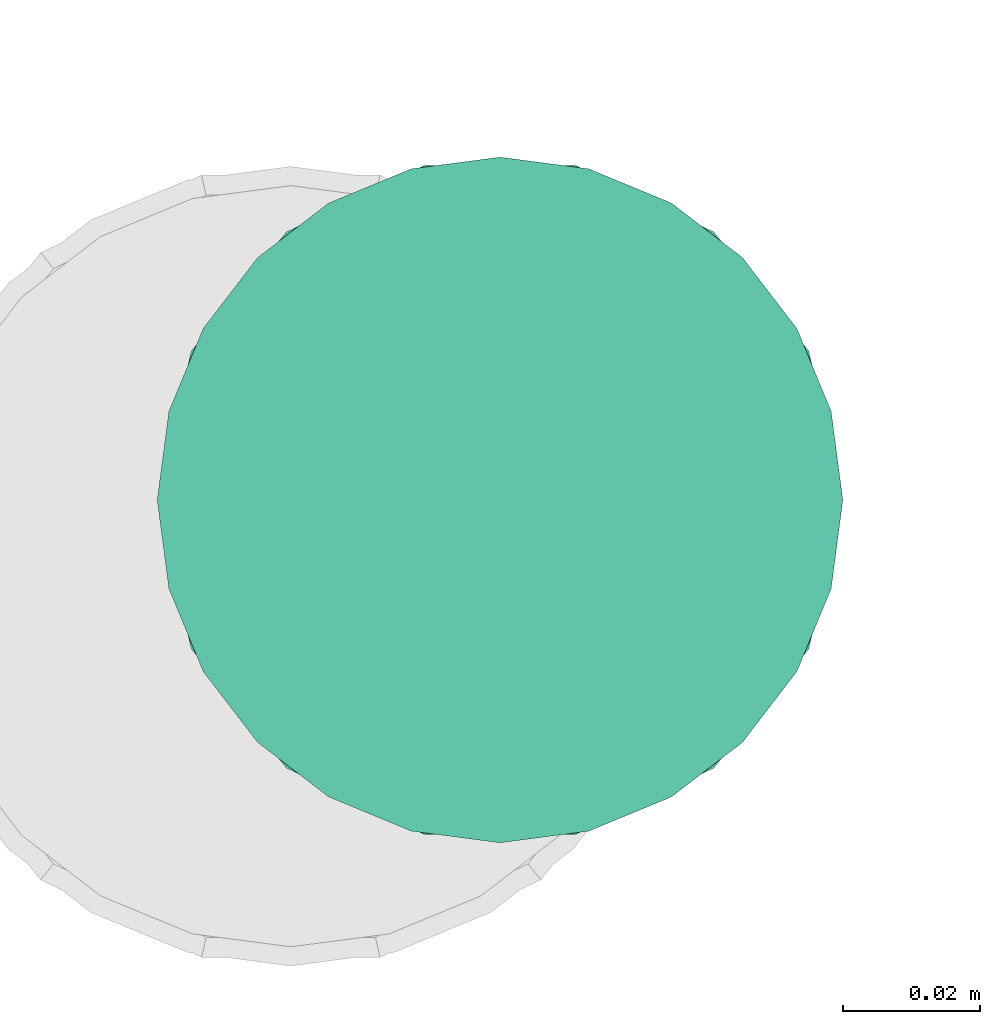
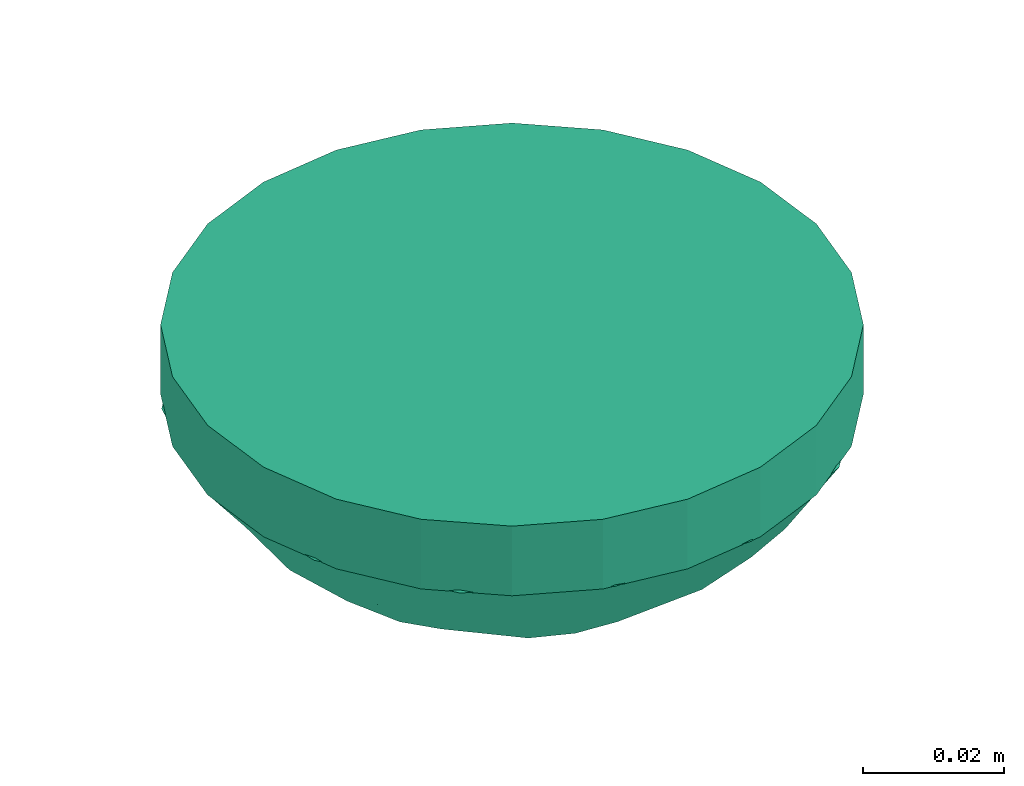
# One storey, part 3 of 3: 1 distribution control element.
"""IFC2X3 building model written with IfcOpenShell, lengths in millimetres."""

from ifc_helpers import new_model, entity, si_unit, converted_unit, derived_unit, direction, frame, origin_with_axes, place, context, subcontext, project, spatial, open_shell, surface_model, source, transform, mapped, type_object, element, save


model = new_model("IFC2X3")

# Units and contexts
model_context = context("Model", 3, precision=0.01, world=frame((0.0, 4.29681676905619e-09, 0.0)), true_north=direction((4.01073788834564e-13, 1.0)))
plan_context = context("Plan", 3, precision=0.01, world=frame((0.0, 4.29681676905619e-09, 0.0)), true_north=direction((4.01073788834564e-13, 1.0)))
body_context = subcontext(model_context, "Body", "Model", "MODEL_VIEW")
ifc_project = project(units=[converted_unit("PLANEANGLEUNIT", "DEGREE", entity("IfcPositiveLengthMeasure", 0.0174532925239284), si_unit("PLANEANGLEUNIT", "RADIAN"), dimensions=[0, 0, 0, 0, 0, 0, 0]), si_unit("AREAUNIT", "SQUARE_METRE"), si_unit("LENGTHUNIT", "METRE", prefix="MILLI"), si_unit("MASSUNIT", "GRAM", prefix="KILO"), si_unit("POWERUNIT", "WATT"), si_unit("PRESSUREUNIT", "PASCAL", prefix="KILO"), si_unit("FORCEUNIT", "NEWTON", prefix="KILO"), si_unit("ELECTRICVOLTAGEUNIT", "VOLT"), si_unit("ELECTRICCURRENTUNIT", "AMPERE"), si_unit("THERMODYNAMICTEMPERATUREUNIT", "DEGREE_CELSIUS"), si_unit("TIMEUNIT", "SECOND"), si_unit("VOLUMEUNIT", "CUBIC_METRE"), derived_unit("LINEARVELOCITYUNIT", [(si_unit("LENGTHUNIT", "METRE"), 1), (si_unit("TIMEUNIT", "SECOND"), -1)]), derived_unit("VOLUMETRICFLOWRATEUNIT", [(si_unit("VOLUMEUNIT", "CUBIC_METRE"), 1), (si_unit("TIMEUNIT", "SECOND"), -1)]), derived_unit("THERMALTRANSMITTANCEUNIT", [(si_unit("POWERUNIT", "WATT"), 1), (si_unit("THERMODYNAMICTEMPERATUREUNIT", "KELVIN"), -1), (si_unit("AREAUNIT", "SQUARE_METRE"), -1)]), derived_unit("SOUNDPRESSUREUNIT", [(si_unit("PRESSUREUNIT", "PASCAL"), 1)])], contexts=[model_context, plan_context])

# Site, building, storey
site_placement = place(None, frame((0.0, -4.29681676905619e-09, 0.0), z_axis=(0.0, 0.0, 1.0), x_axis=(1.0, 0.0, 0.0)))
site = spatial("IfcSite", under=ifc_project, at=site_placement, Name="ENGM", CompositionType="ELEMENT")
building_placement = place(site_placement, frame((0.0, 4.29681676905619e-09, 0.0), z_axis=(0.0, 0.0, 1.0), x_axis=(1.0, 0.0, 0.0)))
building = spatial("IfcBuilding", under=site, at=building_placement, Name="TS", CompositionType="ELEMENT")
storey_placement = place(building_placement, frame((0.0, 0.0, 204000.0), z_axis=(0.0, 0.0, 1.0), x_axis=(1.0, 0.0, 0.0)))
storey = spatial("IfcBuildingStorey", under=building, at=storey_placement, Name="Nivå D", CompositionType="ELEMENT", Elevation=204000.0)

# Distribution control element
alarm_type = type_object("IfcAlarmType", Name="Standard", PredefinedType="NOTDEFINED")
shared_shape = source(origin_with_axes(), body_context, "Body", "SurfaceModel", [
    surface_model("IfcShellBasedSurfaceModel", [(12.94095, -48.29629, 0.0), (25.0, -43.30127, 0.0), (35.35534, -35.35534, 0.0), (48.29629, -12.94095, 0.0), (-48.29629, -12.94095, 0.0), (43.30127, -25.0, 0.0), (-43.30127, 25.0, 0.0), (0.0, -50.0, 0.0), (-25.0, -43.30127, 0.0), (-12.94095, -48.29629, 0.0), (-35.35534, -35.35534, 0.0), (-43.30127, -25.0, 0.0), (50.0, 0.0, 0.0), (48.29629, 12.94095, 0.0), (43.30127, 25.0, 0.0), (35.35534, 35.35534, 0.0), (25.0, 43.30127, 0.0), (12.94095, 48.29629, 0.0), (0.0, 50.0, 0.0), (-50.0, 0.0, 0.0), (-48.29629, 12.94095, 0.0), (-25.0, 43.30127, 0.0), (-35.35534, 35.35534, 0.0), (-12.94095, 48.29629, 0.0), (7.67608, -31.0637, -31.12862), (4.05558, -21.70832, -36.64985), (0.0, -29.66445, -32.67364), (-2.79506, -11.01274, -40.03244), (0.0, -15.02283, -39.14225), (0.0, 0.0, -41.2), (-10.96897, -48.05821, -11.62353), (0.0, -48.05821, -11.62353), (-4.81398, -42.72521, -21.00498), (8.70709, -20.82992, -36.43505), (15.71552, -5.73014, -38.63692), (11.70406, -8.93591, -39.22442), (-30.53049, -30.53049, -20.78559), (-37.57342, -29.96381, -11.62353), (-30.73438, -38.53969, -11.62353), (2.79506, -11.01274, -40.03244), (-3.86054, -22.19731, -36.45535), (-5.26404, -10.58292, -39.93531), (14.7105, -2.44735, -39.17287), (29.88459, -8.08395, -31.83758), (19.69501, 0.0, -37.61326), (36.86111, 0.0, -27.3136), (39.91738, -12.96556, -22.20584), (15.96042, -18.5819, -35.54351), (6.90318, -8.6993, -40.08507), (5.27523, -10.65267, -39.92066), (9.8475, 0.0, -39.40663), (44.41246, -21.38792, -11.62353), (35.75519, -22.60462, -21.82555), (14.18319, -29.14709, -30.83464), (27.04793, -27.53652, -25.72187), (-8.70709, -20.82992, -36.43505), (-23.09167, -36.6454, -20.61752), (-21.97774, -27.94759, -28.42621), (47.34362, -8.5457, -11.62353), (-13.06353, -14.68735, -37.62779), (-11.17668, -7.31629, -39.57942), (-24.0032, -14.86215, -33.5417), (-10.29972, -35.43981, -27.274), (-27.45029, -23.011, -28.20593), (-16.76867, -32.57462, -27.50904), (-19.69501, 0.0, -37.61326), (-18.91126, -5.90044, -37.56966), (-10.71559, -2.12902, -40.12136), (-14.62106, -41.7846, -19.41202), (-20.85168, -43.29895, -11.62353), (4.57466, -40.60127, -23.43443), (-43.10588, 0.0, -19.4329), (-46.85329, -10.69396, -11.62353), (-40.87954, -13.25965, -21.02828), (-32.72348, -9.70245, -29.56139), (-36.86111, 0.0, -27.3136), (10.96897, -48.05821, -11.62353), (17.88349, -37.13545, -23.04571), (-35.00862, -20.27281, -23.86247), (20.85168, -43.29895, -11.62353), (30.73438, -38.53969, -11.62353), (37.57342, -29.96381, -11.62353), (24.0032, -14.86215, -33.5417), (43.10588, 0.0, -19.4329), (28.27806, 0.0, -32.46343), (49.29412, 0.0, -11.62353), (-6.29727, -6.90778, -40.41247), (-9.83734, -4.07711, -40.17573), (-28.27805, 0.0, -32.46344), (-44.41246, -21.38792, -11.62353), (-49.29412, 0.0, -11.62353), (-9.84751, 0.0, -39.40663), (-14.21719, 3.92949, -39.21761), (2.79506, 11.01274, -40.03244), (8.70709, 20.82992, -36.43505), (3.86054, 22.19731, -36.45535), (-9.74719, 10.70904, -39.29066), (-16.87279, 22.34319, -33.67768), (-19.26591, 15.71456, -35.36294), (24.0032, 14.86215, -33.5417), (11.17668, 7.31629, -39.57942), (18.91125, 5.90044, -37.56966), (0.0, 29.66445, -32.67364), (0.0, 15.02283, -39.14225), (-11.74097, 7.2697, -39.46637), (13.06353, 14.68735, -37.62779), (21.97774, 27.94759, -28.42621), (-7.02886, 21.45447, -36.43505), (-2.43974, 10.65154, -40.12089), (-46.85329, 10.69396, -11.62353), (-43.07761, 0.0, -19.46857), (-37.80528, 11.02644, -24.95988), (30.53049, 30.53049, -20.78559), (37.57342, 29.96381, -11.62353), (30.73438, 38.53969, -11.62353), (-26.44156, 5.37443, -34.25208), (-14.5112, 35.83367, -25.6627), (-4.59504, 40.78212, -23.23833), (-10.96897, 48.05821, -11.62353), (5.26404, 10.58292, -39.93531), (-20.85168, 43.29895, -11.62353), (-30.73438, 38.53969, -11.62353), (-22.17501, 31.24312, -25.99315), (-6.94206, 31.54086, -30.91915), (27.45029, 23.011, -28.20593), (9.83734, 4.07711, -40.17573), (10.71466, 2.12844, -40.12157), (14.62106, 41.7846, -19.41201), (23.09167, 36.6454, -20.61752), (20.85168, 43.29895, -11.62353), (10.29972, 35.43981, -27.274), (-29.8461, 26.39463, -24.49477), (4.76512, 42.55573, -21.21352), (-33.50362, 18.51408, -26.02511), (46.85329, 10.69396, -11.62353), (40.87954, 13.25965, -21.02828), (32.72348, 9.70245, -29.56139), (0.0, 48.05821, -11.62353), (-5.58546, 11.46771, -39.72431), (16.76867, 32.57462, -27.50904), (35.00862, 20.27281, -23.86247), (6.29727, 6.90778, -40.41247), (9.80274, 0.0, -39.41479), (44.41246, 21.38792, -11.62353), (10.96897, 48.05821, -11.62353), (-25.94922, 12.36153, -33.2386), (-37.57342, 29.96381, -11.62353), (-44.41246, 21.38792, -11.62353), (46.58288, -14.97139, -12.0), (46.85329, -10.69396, -11.62353), (45.63288, -16.04094, -11.62353), (-26.16238, -41.50528, -12.0), (-21.15027, -43.91899, -12.0), (38.11147, -30.39288, -12.0), (34.64298, -34.74223, -12.0), (11.12605, -48.7464, -12.0), (5.56302, -48.7464, -12.0), (-16.13816, -46.33269, -12.0), (-15.91033, -45.67858, -11.62353), (21.15027, -43.91899, -12.0), (25.79303, -40.91932, -11.62353), (49.14572, -3.74285, -12.0), (48.07371, -5.34698, -11.62353), (48.29144, -7.4857, -12.0), (34.1539, -34.25175, -11.62353), (31.17449, -39.09157, -12.0), (41.57996, -26.04353, -12.0), (40.99294, -25.67586, -11.62353), (15.91033, -45.67858, -11.62353), (16.13816, -46.33269, -12.0), (45.81566, -18.33279, -12.0), (0.0, -48.7464, -12.0), (5.48449, -48.05821, -11.62353), (-11.12605, -48.7464, -12.0), (-5.56302, -48.7464, -12.0), (-38.11147, -30.39288, -12.0), (-41.57996, -26.04353, -12.0), (26.16238, -41.50528, -12.0), (-45.92524, -14.76003, -11.62353), (-47.52422, -10.84709, -12.0), (-46.28633, -16.27064, -12.0), (-25.79303, -40.91932, -11.62353), (-31.17449, -39.09157, -12.0), (-34.64298, -34.74223, -12.0), (-34.1539, -34.25175, -11.62353), (-47.60968, -7.38002, -11.62353), (-48.76211, -5.42355, -12.0), (-5.48449, -48.05821, -11.62353), (47.43716, -11.22855, -12.0), (-40.99294, -25.67586, -11.62353), (-45.04844, -21.69419, -12.0), (-45.16885, -18.07398, -11.62353), (-48.4519, -3.69001, -11.62353), (-50.0, 0.0, -12.0), (-46.76746, -11.07003, -11.62353), (45.04844, -21.69419, -12.0), (50.0, 0.0, -12.0), (-46.58288, 14.97139, -12.0), (-45.63288, 16.04094, -11.62353), (26.16238, 41.50528, -12.0), (21.15027, 43.91899, -12.0), (-38.11147, 30.39288, -12.0), (-34.64298, 34.74223, -12.0), (-11.12605, 48.7464, -12.0), (-5.56302, 48.7464, -12.0), (16.13816, 46.33269, -12.0), (15.91033, 45.67858, -11.62353), (-21.15027, 43.91899, -12.0), (-25.79303, 40.91932, -11.62353), (-49.14572, 3.74285, -12.0), (-48.07371, 5.34698, -11.62353), (-48.29144, 7.4857, -12.0), (-34.1539, 34.25175, -11.62353), (-31.17449, 39.09157, -12.0), (-41.57996, 26.04353, -12.0), (-40.99294, 25.67586, -11.62353), (-15.91033, 45.67858, -11.62353), (-16.13816, 46.33269, -12.0), (-45.81566, 18.33279, -12.0), (0.0, 48.7464, -12.0), (-5.48449, 48.05821, -11.62353), (11.12605, 48.7464, -12.0), (5.56302, 48.7464, -12.0), (38.11147, 30.39288, -12.0), (41.57996, 26.04353, -12.0), (-26.16238, 41.50528, -12.0), (45.92524, 14.76003, -11.62353), (47.52422, 10.84709, -12.0), (46.28633, 16.27064, -12.0), (25.79303, 40.91932, -11.62353), (31.17449, 39.09157, -12.0), (34.64298, 34.74223, -12.0), (34.1539, 34.25175, -11.62353), (47.60968, 7.38002, -11.62353), (48.76211, 5.42355, -12.0), (5.48449, 48.05821, -11.62353), (-47.43716, 11.22855, -12.0), (40.99294, 25.67586, -11.62353), (45.04844, 21.69419, -12.0), (45.16885, 18.07398, -11.62353), (48.4519, 3.69001, -11.62353), (46.76746, 11.07003, -11.62353), (-45.04844, 21.69419, -12.0), (0.0, 0.0, -42.0), (5.33942, -10.73446, -40.7172), (2.83508, -11.17044, -40.81571), (43.69448, 0.0, -19.95738), (47.52422, -10.84709, -12.0), (40.33134, -11.52809, -23.43317), (-7.786, -31.50853, -31.7844), (-4.11366, -22.01918, -37.3847), (0.0, -30.08924, -33.35155), (11.0079, -6.8158, -40.5011), (12.93665, -14.0657, -38.68041), (14.83043, -42.38295, -19.90001), (23.38736, -37.17555, -21.14005), (28.50165, -6.13646, -33.9246), (25.39298, -14.32468, -33.9246), (22.46861, -28.30325, -28.98192), (31.02402, -31.02401, -21.19602), (3.91582, -22.51517, -37.1874), (10.44721, -35.94731, -27.87458), (9.98852, 0.0, -40.18095), (14.48263, -4.02214, -39.9702), (0.0, -15.23795, -39.91278), (19.97704, 0.0, -38.3619), (-11.81668, -7.81843, -40.19998), (-7.48214, -8.20752, -40.901), (21.78942, -19.68136, -33.79957), (8.83177, -21.1282, -37.16682), (4.88291, -43.33703, -21.51579), (-18.13958, -37.66723, -23.58574), (-4.64017, -41.18267, -23.98003), (35.06539, -22.09313, -23.97816), (-15.38276, -16.90014, -37.18762), (-14.38629, -29.56446, -31.48621), (-27.45219, -27.42471, -26.6295), (-41.95596, -9.3663, -22.25327), (-37.38895, 0.0, -27.91475), (-31.18445, -7.87542, -31.98758), (-8.83177, -21.1282, -37.16682), (-19.97704, 0.0, -38.3619), (-17.78963, -5.45275, -38.85817), (-2.83508, -11.17044, -40.81571), (-9.98852, 0.0, -40.18095), (-48.02157, -8.66807, -12.0), (-43.72314, 0.0, -19.92121), (-5.33942, -10.73446, -40.7172), (16.99278, -32.85857, -28.25968), (-37.03558, -17.24643, -24.60212), (-30.47074, -20.85231, -28.31969), (-36.64373, -25.17991, -20.46623), (-25.39298, -14.32468, -33.9246), (-28.68299, 0.0, -33.13833), (28.683, 0.0, -33.13833), (37.38895, 0.0, -27.91475), (-31.02401, 31.02402, -21.19602), (-43.69448, 0.0, -19.95738), (-47.52422, 10.84709, -12.0), (-40.33134, 11.52809, -23.43317), (-14.83043, 42.38294, -19.90002), (-23.38736, 37.17555, -21.14005), (7.786, 31.50853, -31.7844), (4.11366, 22.01918, -37.3847), (0.0, 30.08924, -33.35155), (-11.0079, 6.8158, -40.5011), (-21.78942, 19.68136, -33.79957), (-12.93665, 14.0657, -38.68041), (-25.39298, 14.32468, -33.9246), (-28.50164, 6.13646, -33.9246), (-22.4686, 28.30325, -28.98192), (-8.83177, 21.1282, -37.16682), (-3.91582, 22.51517, -37.1874), (-10.44721, 35.94731, -27.87459), (-14.48263, 4.02214, -39.9702), (-2.83508, 11.17044, -40.81571), (0.0, 15.23795, -39.91278), (-4.88291, 43.33703, -21.51579), (18.13958, 37.66723, -23.58574), (4.64017, 41.18267, -23.98003), (-35.06539, 22.09313, -23.97816), (15.38276, 16.90014, -37.18762), (14.38629, 29.56446, -31.48621), (27.45219, 27.42471, -26.6295), (-16.99277, 32.85857, -28.25968), (41.95596, 9.3663, -22.25327), (31.18445, 7.87542, -31.98758), (17.78963, 5.45275, -38.85817), (2.83508, 11.17044, -40.81571), (8.83177, 21.1282, -37.16682), (48.02157, 8.66807, -12.0), (43.72314, 0.0, -19.9212), (11.81668, 7.81843, -40.19998), (7.48214, 8.20752, -40.901), (5.33942, 10.73446, -40.7172), (-5.33942, 10.73446, -40.7172), (37.03558, 17.24643, -24.60212), (30.47074, 20.85231, -28.31969), (36.64373, 25.17991, -20.46623), (25.39298, 14.32468, -33.9246), (12.94095, -48.29629, -11.9), (25.0, -43.30127, -11.9), (35.35534, -35.35534, -11.9), (48.29629, -12.94095, -11.9), (-48.29629, -12.94095, -11.9), (43.30127, -25.0, -11.9), (-43.30127, 25.0, -11.9), (0.0, -50.0, -11.9), (-25.0, -43.30127, -11.9), (-12.94095, -48.29629, -11.9), (-35.35534, -35.35534, -11.9), (-43.30127, -25.0, -11.9), (50.0, 0.0, -11.9), (48.29629, 12.94095, -11.9), (43.30127, 25.0, -11.9), (35.35534, 35.35534, -11.9), (25.0, 43.30127, -11.9), (12.94095, 48.29629, -11.9), (0.0, 50.0, -11.9), (-50.0, 0.0, -11.9), (-48.29629, 12.94095, -11.9), (-25.0, 43.30127, -11.9), (-35.35534, 35.35534, -11.9), (-12.94095, 48.29629, -11.9), (0.0, 50.0, -12.1), (12.94095, 48.29629, -12.1), (25.0, 43.30127, -12.1), (-43.30127, 25.0, -12.1), (35.35534, 35.35534, -12.1), (43.30127, 25.0, -12.1), (48.29629, 12.94095, -12.1), (-25.0, 43.30127, -12.1), (-35.35534, 35.35534, -12.1), (-12.94095, 48.29629, -12.1), (-50.0, 0.0, -12.1), (-48.29629, 12.94095, -12.1), (-48.29629, -12.94095, -12.1), (48.29629, -12.94095, -12.1), (12.94095, -48.29629, -12.1), (43.30127, -25.0, -12.1), (35.35534, -35.35534, -12.1), (25.0, -43.30127, -12.1), (-25.0, -43.30127, -12.1), (-35.35534, -35.35534, -12.1), (-43.30127, -25.0, -12.1), (0.0, -50.0, -12.1), (-12.94095, -48.29629, -12.1), (50.0, 0.0, -12.1), (0.0, 50.0, -12.0), (12.94095, 48.29629, -12.0), (25.0, 43.30127, -12.0), (-43.30127, 25.0, -12.0), (35.35534, 35.35534, -12.0), (43.30127, 25.0, -12.0), (48.29629, 12.94095, -12.0), (-25.0, 43.30127, -12.0), (-35.35534, 35.35534, -12.0), (-12.94095, 48.29629, -12.0), (-48.29629, 12.94095, -12.0), (-48.29629, -12.94095, -12.0), (48.29629, -12.94095, -12.0), (12.94095, -48.29629, -12.0), (43.30127, -25.0, -12.0), (35.35534, -35.35534, -12.0), (25.0, -43.30127, -12.0), (-25.0, -43.30127, -12.0), (-35.35534, -35.35534, -12.0), (-43.30127, -25.0, -12.0), (0.0, -50.0, -12.0), (-12.94095, -48.29629, -12.0)], [open_shell([[[0, 1, 2]], [[0, 2, 3]], [[0, 3, 4]], [[3, 2, 5]], [[6, 4, 3]], [[7, 8, 9]], [[7, 0, 8]], [[10, 4, 11]], [[10, 8, 0]], [[4, 10, 0]], [[3, 12, 6]], [[13, 14, 15]], [[13, 15, 16]], [[16, 17, 18]], [[13, 16, 6]], [[6, 16, 18]], [[19, 6, 20]], [[4, 6, 19]], [[6, 21, 22]], [[21, 6, 23]], [[18, 23, 6]], [[6, 12, 13]], [[24, 25, 26]], [[27, 28, 29]], [[30, 31, 32]], [[24, 33, 25]], [[34, 29, 35]], [[36, 37, 38]], [[39, 29, 28]], [[26, 28, 40]], [[29, 41, 27]], [[42, 43, 44]], [[45, 43, 46]], [[47, 48, 49]], [[42, 44, 50]], [[51, 46, 52]], [[47, 53, 54]], [[27, 55, 40]], [[56, 57, 36]], [[28, 27, 40]], [[51, 58, 46]], [[59, 60, 61]], [[62, 40, 55]], [[59, 61, 63]], [[57, 64, 55]], [[65, 66, 67]], [[68, 56, 69]], [[40, 62, 26]], [[70, 24, 26]], [[61, 60, 66]], [[53, 33, 24]], [[49, 29, 39]], [[71, 72, 73]], [[74, 61, 66]], [[73, 74, 75]], [[49, 39, 33]], [[31, 76, 70]], [[76, 77, 70]], [[78, 61, 74]], [[59, 57, 55]], [[62, 68, 32]], [[77, 76, 79]], [[32, 26, 62]], [[54, 77, 80]], [[77, 53, 24]], [[31, 70, 32]], [[26, 32, 70]], [[54, 81, 52]], [[54, 82, 47]], [[82, 35, 47]], [[47, 35, 48]], [[35, 82, 34]], [[48, 35, 29]], [[43, 34, 82]], [[29, 34, 42]], [[83, 46, 58]], [[43, 84, 44]], [[54, 52, 82]], [[45, 46, 83]], [[58, 85, 83]], [[82, 46, 43]], [[82, 52, 46]], [[41, 55, 27]], [[81, 54, 80]], [[81, 51, 52]], [[60, 86, 29]], [[77, 24, 70]], [[33, 39, 25]], [[87, 66, 60]], [[66, 88, 74]], [[78, 73, 89]], [[73, 75, 71]], [[56, 36, 38]], [[63, 78, 36]], [[39, 28, 25]], [[73, 78, 74]], [[71, 90, 72]], [[26, 25, 28]], [[54, 53, 77]], [[47, 33, 53]], [[78, 89, 37]], [[63, 36, 57]], [[78, 37, 36]], [[69, 30, 68]], [[64, 57, 56]], [[56, 38, 69]], [[59, 63, 57]], [[61, 78, 63]], [[32, 68, 30]], [[68, 62, 64]], [[68, 64, 56]], [[55, 64, 62]], [[59, 55, 41]], [[86, 60, 59]], [[29, 86, 41]], [[41, 86, 59]], [[47, 49, 33]], [[48, 29, 49]], [[79, 80, 77]], [[29, 42, 50]], [[43, 42, 34]], [[43, 45, 84]], [[29, 87, 60]], [[87, 67, 66]], [[29, 91, 67]], [[67, 87, 29]], [[65, 67, 91]], [[88, 66, 65]], [[88, 75, 74]], [[89, 73, 72]], [[91, 29, 92]], [[93, 94, 95]], [[96, 97, 98]], [[99, 100, 101]], [[102, 103, 95]], [[96, 98, 104]], [[105, 106, 94]], [[107, 108, 103]], [[109, 110, 111]], [[112, 113, 114]], [[103, 102, 107]], [[65, 92, 115]], [[75, 115, 111]], [[103, 108, 29]], [[93, 103, 29]], [[107, 116, 97]], [[116, 117, 118]], [[103, 93, 95]], [[29, 119, 93]], [[105, 100, 99]], [[120, 121, 122]], [[102, 123, 107]], [[105, 99, 124]], [[125, 126, 101]], [[127, 128, 129]], [[95, 130, 102]], [[131, 98, 97]], [[104, 92, 29]], [[102, 132, 117]], [[133, 98, 131]], [[83, 134, 135]], [[136, 99, 101]], [[135, 136, 45]], [[118, 117, 137]], [[97, 96, 138]], [[122, 121, 131]], [[130, 95, 94]], [[106, 139, 94]], [[140, 99, 136]], [[128, 106, 112]], [[127, 132, 130]], [[123, 117, 116]], [[132, 102, 130]], [[119, 94, 93]], [[100, 141, 29]], [[142, 126, 29]], [[125, 101, 100]], [[101, 84, 136]], [[140, 135, 143]], [[135, 45, 83]], [[128, 112, 114]], [[124, 140, 112]], [[140, 143, 113]], [[135, 140, 136]], [[83, 85, 134]], [[124, 112, 106]], [[140, 113, 112]], [[129, 144, 127]], [[139, 106, 128]], [[128, 114, 129]], [[105, 124, 106]], [[99, 140, 124]], [[144, 137, 132]], [[127, 130, 139]], [[144, 132, 127]], [[137, 117, 132]], [[127, 139, 128]], [[94, 139, 130]], [[104, 29, 96]], [[145, 115, 92]], [[145, 92, 104]], [[110, 109, 90]], [[97, 122, 131]], [[145, 104, 98]], [[131, 121, 146]], [[147, 111, 133]], [[111, 115, 145]], [[115, 75, 88]], [[133, 111, 145]], [[138, 108, 107]], [[138, 29, 108]], [[97, 138, 107]], [[138, 96, 29]], [[105, 94, 119]], [[141, 100, 105]], [[29, 141, 119]], [[119, 141, 105]], [[117, 123, 102]], [[116, 107, 123]], [[116, 118, 120]], [[29, 125, 100]], [[44, 101, 126]], [[126, 125, 29]], [[44, 126, 142]], [[84, 101, 44]], [[84, 45, 136]], [[143, 135, 134]], [[92, 65, 91]], [[97, 116, 122]], [[122, 116, 120]], [[98, 133, 145]], [[133, 146, 147]], [[88, 65, 115]], [[133, 131, 146]], [[111, 147, 109]], [[110, 75, 111]], [[148, 149, 150]], [[69, 151, 152]], [[153, 81, 154]], [[155, 76, 156]], [[152, 157, 158]], [[79, 159, 160]], [[161, 85, 162]], [[163, 162, 149]], [[164, 165, 154]], [[166, 51, 167]], [[168, 155, 169]], [[51, 170, 150]], [[31, 171, 172]], [[173, 30, 157]], [[69, 152, 158]], [[31, 174, 171]], [[175, 37, 176]], [[79, 169, 159]], [[165, 80, 177]], [[178, 179, 180]], [[153, 167, 81]], [[181, 182, 151]], [[80, 165, 164]], [[183, 38, 184]], [[185, 186, 179]], [[164, 154, 81]], [[159, 177, 160]], [[187, 173, 174]], [[156, 172, 171]], [[149, 148, 188]], [[175, 184, 37]], [[189, 176, 37]], [[89, 190, 189]], [[190, 191, 180]], [[192, 193, 186]], [[179, 178, 194]], [[167, 153, 166]], [[166, 195, 51]], [[169, 79, 168]], [[168, 76, 155]], [[174, 31, 187]], [[187, 30, 173]], [[151, 69, 181]], [[181, 38, 182]], [[184, 175, 183]], [[183, 182, 38]], [[162, 163, 161]], [[161, 196, 85]], [[186, 185, 192]], [[192, 90, 193]], [[170, 51, 195]], [[170, 148, 150]], [[188, 163, 149]], [[177, 80, 160]], [[156, 76, 172]], [[157, 30, 158]], [[189, 190, 176]], [[191, 190, 89]], [[191, 178, 180]], [[194, 185, 179]], [[197, 109, 198]], [[129, 199, 200]], [[201, 146, 202]], [[203, 118, 204]], [[200, 205, 206]], [[120, 207, 208]], [[209, 90, 210]], [[211, 210, 109]], [[212, 213, 202]], [[214, 147, 215]], [[216, 203, 217]], [[147, 218, 198]], [[137, 219, 220]], [[221, 144, 205]], [[129, 200, 206]], [[137, 222, 219]], [[223, 113, 224]], [[120, 217, 207]], [[213, 121, 225]], [[226, 227, 228]], [[201, 215, 146]], [[229, 230, 199]], [[121, 213, 212]], [[231, 114, 232]], [[233, 234, 227]], [[212, 202, 146]], [[207, 225, 208]], [[235, 221, 222]], [[204, 220, 219]], [[109, 197, 236]], [[223, 232, 113]], [[237, 224, 113]], [[143, 238, 237]], [[238, 239, 228]], [[240, 196, 234]], [[227, 226, 241]], [[215, 201, 214]], [[214, 242, 147]], [[217, 120, 216]], [[216, 118, 203]], [[222, 137, 235]], [[235, 144, 221]], [[199, 129, 229]], [[229, 114, 230]], [[232, 223, 231]], [[231, 230, 114]], [[210, 211, 209]], [[209, 193, 90]], [[234, 233, 240]], [[240, 85, 196]], [[218, 147, 242]], [[218, 197, 198]], [[236, 211, 109]], [[225, 121, 208]], [[204, 118, 220]], [[205, 144, 206]], [[237, 238, 224]], [[239, 238, 143]], [[239, 226, 228]], [[241, 233, 227]], [[243, 244, 245]], [[246, 247, 248]], [[249, 250, 251]], [[252, 253, 243]], [[254, 255, 159]], [[256, 248, 257]], [[258, 259, 255]], [[251, 260, 261]], [[243, 262, 263]], [[251, 264, 260]], [[265, 256, 263]], [[266, 243, 267]], [[245, 264, 243]], [[252, 263, 257]], [[268, 258, 253]], [[245, 269, 260]], [[264, 245, 260]], [[155, 171, 270]], [[271, 272, 173]], [[273, 257, 248]], [[274, 275, 276]], [[252, 268, 253]], [[277, 278, 279]], [[261, 260, 269]], [[275, 280, 249]], [[276, 182, 175]], [[281, 282, 279]], [[283, 243, 264]], [[249, 280, 250]], [[259, 153, 165]], [[284, 243, 282]], [[277, 285, 286]], [[287, 243, 283]], [[287, 283, 280]], [[243, 266, 282]], [[272, 249, 251]], [[171, 173, 272]], [[253, 258, 269]], [[269, 258, 288]], [[261, 254, 270]], [[271, 173, 152]], [[270, 251, 261]], [[276, 271, 182]], [[271, 275, 249]], [[171, 272, 270]], [[251, 270, 272]], [[289, 290, 291]], [[290, 274, 276]], [[266, 274, 292]], [[244, 269, 245]], [[271, 249, 272]], [[280, 283, 250]], [[282, 266, 292]], [[279, 282, 292]], [[290, 289, 292]], [[279, 293, 281]], [[289, 279, 292]], [[279, 289, 277]], [[285, 193, 286]], [[277, 190, 285]], [[277, 286, 278]], [[190, 277, 289]], [[283, 264, 250]], [[251, 250, 264]], [[276, 275, 271]], [[289, 291, 190]], [[274, 280, 275]], [[263, 252, 243]], [[268, 252, 257]], [[247, 246, 196]], [[256, 265, 294]], [[248, 256, 295]], [[257, 263, 256]], [[248, 195, 273]], [[255, 259, 165]], [[273, 259, 268]], [[253, 269, 244]], [[280, 274, 287]], [[244, 243, 253]], [[267, 287, 274]], [[287, 267, 243]], [[266, 267, 274]], [[273, 195, 153]], [[268, 259, 258]], [[273, 153, 259]], [[159, 155, 254]], [[288, 258, 255]], [[255, 165, 159]], [[270, 254, 155]], [[254, 261, 288]], [[254, 288, 255]], [[269, 288, 261]], [[182, 271, 152]], [[273, 268, 257]], [[282, 281, 284]], [[279, 278, 293]], [[274, 290, 292]], [[291, 276, 175]], [[276, 291, 290]], [[190, 291, 175]], [[248, 295, 246]], [[295, 256, 294]], [[262, 265, 263]], [[247, 195, 248]], [[296, 201, 213]], [[297, 298, 299]], [[300, 301, 207]], [[302, 303, 304]], [[305, 306, 307]], [[299, 308, 309]], [[307, 310, 311]], [[304, 312, 313]], [[243, 284, 314]], [[281, 309, 314]], [[315, 316, 243]], [[308, 305, 314]], [[310, 307, 306]], [[305, 307, 243]], [[203, 219, 317]], [[316, 315, 312]], [[310, 296, 301]], [[318, 319, 221]], [[320, 308, 299]], [[321, 322, 323]], [[311, 310, 324]], [[325, 295, 326]], [[313, 312, 311]], [[315, 311, 312]], [[323, 230, 223]], [[304, 316, 312]], [[265, 327, 326]], [[328, 243, 316]], [[302, 329, 303]], [[322, 329, 302]], [[262, 243, 327]], [[325, 330, 331]], [[332, 243, 333]], [[334, 328, 329]], [[243, 332, 327]], [[243, 335, 315]], [[334, 243, 328]], [[219, 221, 319]], [[319, 302, 304]], [[313, 300, 317]], [[318, 221, 200]], [[317, 304, 313]], [[323, 318, 230]], [[318, 322, 302]], [[219, 319, 317]], [[304, 317, 319]], [[336, 337, 338]], [[337, 321, 323]], [[332, 321, 339]], [[335, 311, 315]], [[318, 302, 319]], [[329, 328, 303]], [[327, 332, 339]], [[326, 327, 339]], [[337, 336, 339]], [[326, 294, 265]], [[336, 326, 339]], [[326, 336, 325]], [[330, 196, 331]], [[325, 238, 330]], [[325, 331, 295]], [[238, 325, 336]], [[328, 316, 303]], [[304, 303, 316]], [[323, 322, 318]], [[336, 338, 238]], [[321, 329, 322]], [[314, 305, 243]], [[306, 305, 308]], [[298, 297, 193]], [[309, 281, 293]], [[299, 309, 278]], [[308, 314, 309]], [[299, 242, 320]], [[301, 296, 213]], [[320, 296, 306]], [[307, 311, 335]], [[329, 321, 334]], [[335, 243, 307]], [[333, 334, 321]], [[334, 333, 243]], [[332, 333, 321]], [[320, 242, 201]], [[306, 296, 310]], [[320, 201, 296]], [[207, 203, 300]], [[324, 310, 301]], [[301, 213, 207]], [[317, 300, 203]], [[300, 313, 324]], [[300, 324, 301]], [[311, 324, 313]], [[200, 230, 318]], [[320, 306, 308]], [[327, 265, 262]], [[326, 295, 294]], [[321, 337, 339]], [[338, 323, 223]], [[323, 338, 337]], [[238, 338, 223]], [[299, 278, 297]], [[278, 309, 293]], [[284, 281, 314]], [[298, 242, 299]], [[340, 341, 342]], [[340, 342, 343]], [[340, 343, 344]], [[343, 342, 345]], [[346, 344, 343]], [[347, 348, 349]], [[347, 340, 348]], [[350, 344, 351]], [[350, 348, 340]], [[344, 350, 340]], [[343, 352, 346]], [[353, 354, 355]], [[353, 355, 356]], [[356, 357, 358]], [[353, 356, 346]], [[346, 356, 358]], [[359, 346, 360]], [[344, 346, 359]], [[346, 361, 362]], [[361, 346, 363]], [[358, 363, 346]], [[346, 352, 353]], [[364, 365, 366]], [[367, 364, 366]], [[368, 369, 370]], [[368, 370, 366]], [[367, 366, 370]], [[371, 367, 372]], [[367, 371, 373]], [[367, 374, 375]], [[367, 373, 364]], [[367, 376, 374]], [[367, 370, 377]], [[376, 367, 377]], [[378, 377, 379]], [[380, 381, 378]], [[380, 378, 379]], [[382, 377, 378]], [[376, 383, 384]], [[376, 377, 383]], [[382, 385, 386]], [[383, 377, 382]], [[378, 385, 382]], [[377, 370, 387]], [[376, 344, 374]], [[384, 351, 376]], [[348, 383, 382]], [[384, 383, 350]], [[349, 382, 386]], [[376, 351, 344]], [[344, 359, 374]], [[349, 348, 382]], [[350, 383, 348]], [[350, 351, 384]], [[347, 349, 386]], [[386, 385, 347]], [[378, 340, 385]], [[381, 341, 378]], [[345, 380, 379]], [[381, 380, 342]], [[343, 379, 377]], [[381, 342, 341]], [[341, 340, 378]], [[352, 343, 377]], [[345, 379, 343]], [[345, 342, 380]], [[387, 352, 377]], [[385, 340, 347]], [[370, 353, 387]], [[369, 354, 370]], [[356, 368, 366]], [[369, 368, 355]], [[357, 366, 365]], [[370, 354, 353]], [[353, 352, 387]], [[357, 356, 366]], [[355, 368, 356]], [[355, 354, 369]], [[358, 357, 365]], [[365, 364, 358]], [[373, 363, 364]], [[371, 361, 373]], [[346, 372, 367]], [[371, 372, 362]], [[360, 367, 375]], [[371, 362, 361]], [[361, 363, 373]], [[359, 360, 375]], [[346, 367, 360]], [[346, 362, 372]], [[374, 359, 375]], [[364, 363, 358]], [[388, 389, 390]], [[391, 388, 390]], [[392, 393, 394]], [[392, 394, 390]], [[391, 390, 394]], [[395, 391, 396]], [[391, 395, 397]], [[391, 193, 398]], [[391, 397, 388]], [[391, 399, 193]], [[391, 394, 400]], [[399, 391, 400]], [[401, 400, 402]], [[403, 404, 401]], [[403, 401, 402]], [[405, 400, 401]], [[399, 406, 407]], [[399, 400, 406]], [[405, 408, 409]], [[406, 400, 405]], [[401, 408, 405]], [[400, 394, 196]], [[399, 4, 193]], [[407, 11, 399]], [[8, 406, 405]], [[407, 406, 10]], [[9, 405, 409]], [[399, 11, 4]], [[4, 19, 193]], [[9, 8, 405]], [[10, 406, 8]], [[10, 11, 407]], [[7, 9, 409]], [[409, 408, 7]], [[401, 0, 408]], [[404, 1, 401]], [[5, 403, 402]], [[404, 403, 2]], [[3, 402, 400]], [[404, 2, 1]], [[1, 0, 401]], [[12, 3, 400]], [[5, 402, 3]], [[5, 2, 403]], [[196, 12, 400]], [[408, 0, 7]], [[394, 13, 196]], [[393, 14, 394]], [[16, 392, 390]], [[393, 392, 15]], [[17, 390, 389]], [[394, 14, 13]], [[13, 12, 196]], [[17, 16, 390]], [[15, 392, 16]], [[15, 14, 393]], [[18, 17, 389]], [[389, 388, 18]], [[397, 23, 388]], [[395, 21, 397]], [[6, 396, 391]], [[395, 396, 22]], [[20, 391, 398]], [[395, 22, 21]], [[21, 23, 397]], [[19, 20, 398]], [[6, 391, 20]], [[6, 22, 396]], [[193, 19, 398]], [[388, 23, 18]]])]),
])
distribution_control_element_placement = place(storey_placement, frame((597785.83297, 403985.50629, 2400.0), z_axis=(0.0, 0.0, 1.0), x_axis=(1.0, 0.0, 0.0)))
element("IfcDistributionControlElement", 1, at=distribution_control_element_placement, inside=storey, type_object=alarm_type, Name="Standard", context=body_context, shape_type="MappedRepresentation", body=[
    mapped(shared_shape, transform((0.0, 0.0, 0.0), scale=1.0)),
])

save(model, "model.ifc")
